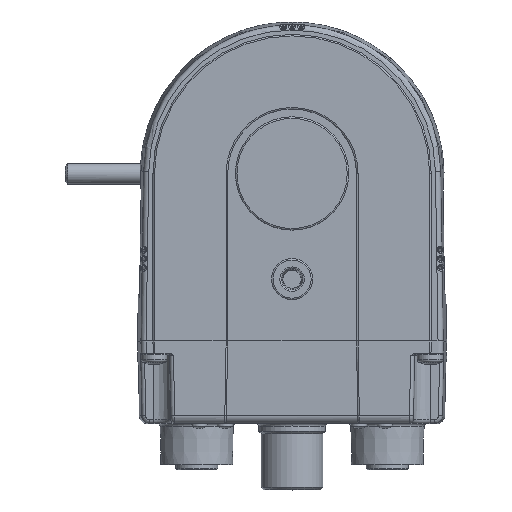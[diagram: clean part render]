
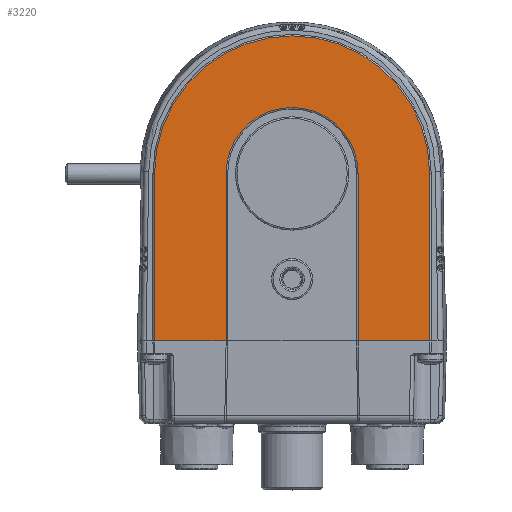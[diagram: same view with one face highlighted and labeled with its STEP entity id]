
A CAD part, top view. The second image highlights one B-rep face of the part: STEP entity #3220.
In plain terms, the highlighted planar face has unit normal (0, 0, 1).
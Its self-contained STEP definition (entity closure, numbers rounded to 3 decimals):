
#3220 = ADVANCED_FACE( '', ( #6846 ), #6847, .T. );
#6846 = FACE_OUTER_BOUND( '', #15903, .T. );
#6847 = PLANE( '', #15904 );
#15903 = EDGE_LOOP( '', ( #26257, #26258, #26259, #26260, #26261, #26262, #26263, #26264 ) );
#15904 = AXIS2_PLACEMENT_3D( '', #26265, #26266, #26267 );
#26257 = ORIENTED_EDGE( '', *, *, #31586, .T. );
#26258 = ORIENTED_EDGE( '', *, *, #30190, .T. );
#26259 = ORIENTED_EDGE( '', *, *, #28939, .T. );
#26260 = ORIENTED_EDGE( '', *, *, #30273, .T. );
#26261 = ORIENTED_EDGE( '', *, *, #28516, .T. );
#26262 = ORIENTED_EDGE( '', *, *, #30912, .T. );
#26263 = ORIENTED_EDGE( '', *, *, #31587, .T. );
#26264 = ORIENTED_EDGE( '', *, *, #30844, .T. );
#26265 = CARTESIAN_POINT( '', ( 0., 0., 50.4 ) );
#26266 = DIRECTION( '', ( 0., 0., 1. ) );
#26267 = DIRECTION( '', ( 1., 0., 0. ) );
#28516 = EDGE_CURVE( '', #33139, #33144, #33146, .T. );
#28939 = EDGE_CURVE( '', #33850, #33851, #33852, .T. );
#30190 = EDGE_CURVE( '', #35761, #33850, #35764, .T. );
#30273 = EDGE_CURVE( '', #33851, #33139, #35872, .T. );
#30844 = EDGE_CURVE( '', #33339, #36638, #36640, .T. );
#30912 = EDGE_CURVE( '', #33144, #36722, #36724, .T. );
#31586 = EDGE_CURVE( '', #36638, #35761, #37489, .T. );
#31587 = EDGE_CURVE( '', #36722, #33339, #37490, .T. );
#33139 = VERTEX_POINT( '', #40591 );
#33144 = VERTEX_POINT( '', #40596 );
#33146 = CIRCLE( '', #40598, 26.7 );
#33339 = VERTEX_POINT( '', #41104 );
#33850 = VERTEX_POINT( '', #41981 );
#33851 = VERTEX_POINT( '', #41982 );
#33852 = LINE( '', #41983, #41984 );
#35761 = VERTEX_POINT( '', #45692 );
#35764 = LINE( '', #45696, #45697 );
#35872 = LINE( '', #45915, #45916 );
#36638 = VERTEX_POINT( '', #47267 );
#36640 = LINE( '', #47269, #47270 );
#36722 = VERTEX_POINT( '', #47444 );
#36724 = LINE( '', #47455, #47456 );
#37489 = CIRCLE( '', #48957, 12.8 );
#37490 = LINE( '', #48958, #48959 );
#40591 = CARTESIAN_POINT( '', ( 26.7, 0., 50.4 ) );
#40596 = CARTESIAN_POINT( '', ( -26.7, 0., 50.4 ) );
#40598 = AXIS2_PLACEMENT_3D( '', #50272, #50273, #50274 );
#41104 = CARTESIAN_POINT( '', ( -12.8, -32.5, 50.4 ) );
#41981 = CARTESIAN_POINT( '', ( 12.8, -32.5, 50.4 ) );
#41982 = CARTESIAN_POINT( '', ( 26.7, -32.5, 50.4 ) );
#41983 = CARTESIAN_POINT( '', ( 12.5, -32.5, 50.4 ) );
#41984 = VECTOR( '', #50767, 1000. );
#45692 = CARTESIAN_POINT( '', ( 12.8, 0., 50.4 ) );
#45696 = CARTESIAN_POINT( '', ( 12.8, -32.5, 50.4 ) );
#45697 = VECTOR( '', #52163, 1000. );
#45915 = CARTESIAN_POINT( '', ( 26.7, 0., 50.4 ) );
#45916 = VECTOR( '', #52258, 1000. );
#47267 = CARTESIAN_POINT( '', ( -12.8, 0., 50.4 ) );
#47269 = CARTESIAN_POINT( '', ( -12.8, 0., 50.4 ) );
#47270 = VECTOR( '', #52857, 1000. );
#47444 = CARTESIAN_POINT( '', ( -26.7, -32.5, 50.4 ) );
#47455 = CARTESIAN_POINT( '', ( -26.7, -32.5, 50.4 ) );
#47456 = VECTOR( '', #52905, 1000. );
#48957 = AXIS2_PLACEMENT_3D( '', #53467, #53468, #53469 );
#48958 = CARTESIAN_POINT( '', ( -27., -32.5, 50.4 ) );
#48959 = VECTOR( '', #53470, 1000. );
#50272 = CARTESIAN_POINT( '', ( 0., 0., 50.4 ) );
#50273 = DIRECTION( '', ( 0., 0., 1. ) );
#50274 = DIRECTION( '', ( 1., 0., 0. ) );
#50767 = DIRECTION( '', ( 1., 0., 0. ) );
#52163 = DIRECTION( '', ( 0., -1., 0. ) );
#52258 = DIRECTION( '', ( 0., 1., 0. ) );
#52857 = DIRECTION( '', ( 0., 1., 0. ) );
#52905 = DIRECTION( '', ( 0., -1., 0. ) );
#53467 = CARTESIAN_POINT( '', ( 0., 0., 50.4 ) );
#53468 = DIRECTION( '', ( 0., 0., -1. ) );
#53469 = DIRECTION( '', ( 1., 0., 0. ) );
#53470 = DIRECTION( '', ( 1., 0., 0. ) );
